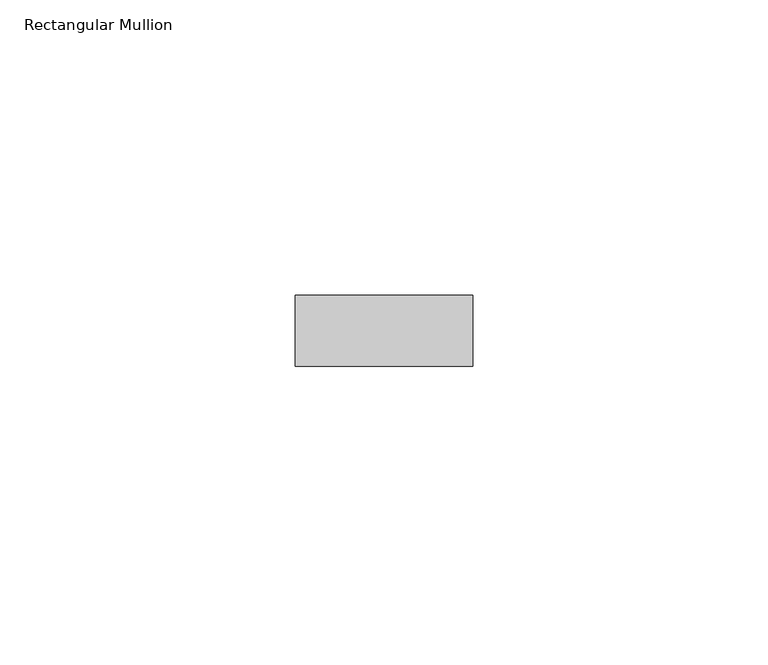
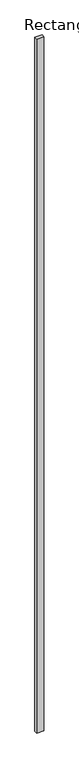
"""IFC4 building model written with IfcOpenShell, lengths in millimetres: member geometry, Rectangular Mullion : RSen_21_CWM_support profile - 30x12 - left_gen_duco projects."""

from ifc_helpers import new_model, si_unit, frame, origin, place, context, project, spatial, polyline, outline, extrude, source, transform, mapped, element, save


def rectangular_mullion_07ce7cd6(model_context):
    return source(origin(), model_context, "Body", "SweptSolid", [
        extrude(outline(polyline([(-50.0, 1.0), (-50.0, -11.0), (-80.0, -11.0), (-80.0, 1.0), (-50.0, 1.0)])), frame((0.0, 0.0, -3000.0), z_axis=(0.0, 0.0, 1.0), x_axis=(1.0, 0.0, 0.0)), (0.0, 0.0, 1.0), 3000.0),
    ])


if __name__ == "__main__":
    model = new_model("IFC4")
    model_context = context("Model", 3, world=origin())
    ifc_project = project(units=[si_unit("LENGTHUNIT", "METRE", prefix="MILLI")], contexts=[model_context])
    site = spatial("IfcSite", under=ifc_project)
    building = spatial("IfcBuilding", under=site)
    placement = place(None, origin())
    rectangular_mullion_shape = rectangular_mullion_07ce7cd6(model_context)
    element("IfcMember", 1, ObjectType="Rectangular Mullion : RSen_21_CWM_support profile - 30x12 - left_gen_duco projects", at=placement, inside=building, context=model_context, shape_type="MappedRepresentation", body=[
        mapped(rectangular_mullion_shape, transform((0.0, 0.0, 0.0), x_axis=(1.0, 0.0, 0.0), y_axis=(0.0, 1.0, 0.0), z_axis=(0.0, 0.0, 1.0))),
    ])
    save(model, "model.ifc")
